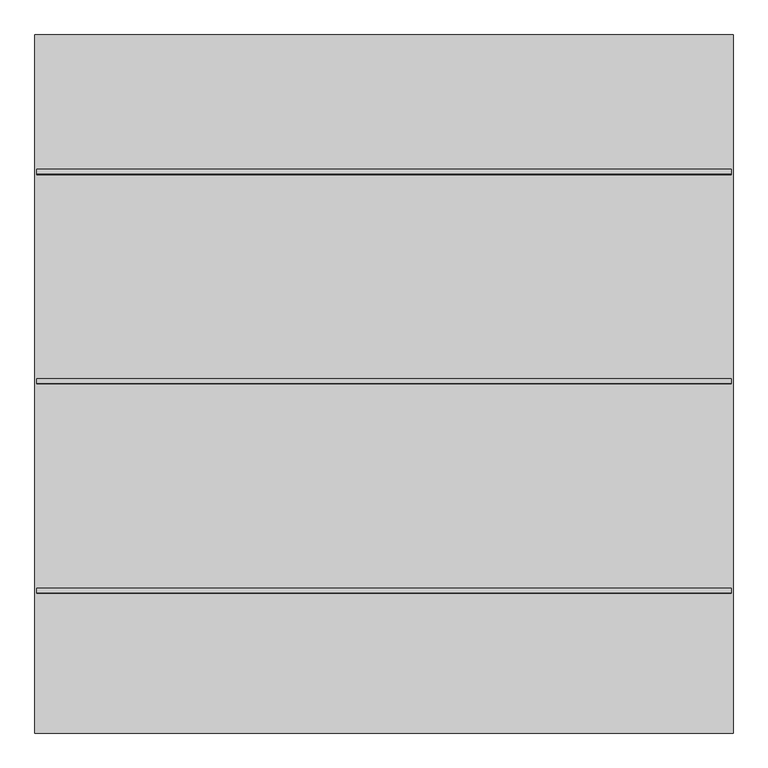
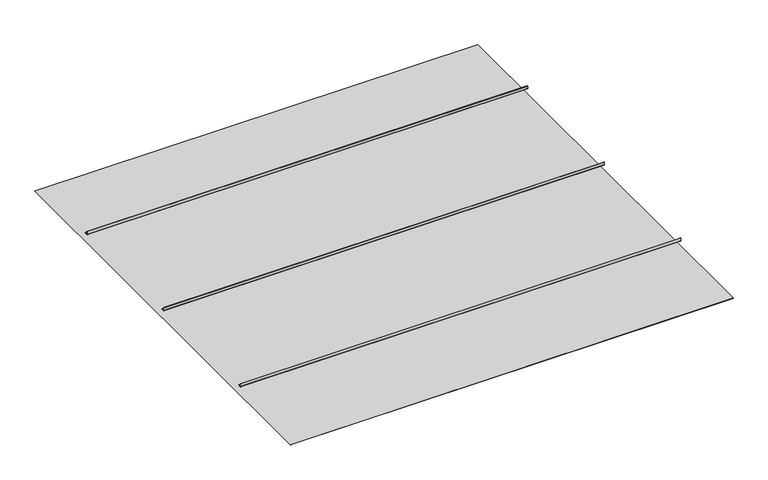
"""IFC4 building model written with IfcOpenShell, lengths in millimetres: proxy geometry, durlum_FLUID-C : durlum_FLUID-C_1204x1204."""

from ifc_helpers import new_model, si_unit, point, frame, frame_2d, origin, place, context, project, spatial, polyline, circle_curve, trimmed, segment, composite_curve, outline, extrude, source, transform, mapped, element, save


def generic_models_1e71879b(model_context):
    return source(origin(), model_context, "Body", "SweptSolid", [
        extrude(outline(composite_curve([segment(polyline([(2.0, 3832.9), (2.0, 3807.0)]), True, "CONTINUOUS"), segment(trimmed(circle_curve(frame_2d((4.0, 3807.0)), 2.0), [point((2.0, 3807.0))], [point((4.0, 3805.0))], True, "CARTESIAN"), True, "CONTINUOUS"), segment(polyline([(4.0, 3805.0), (29.9, 3805.0), (29.9, 3803.0), (4.0, 3803.0)]), True, "CONTINUOUS"), segment(trimmed(circle_curve(frame_2d((4.0, 3807.0)), 4.0), [point((4.0, 3803.0))], [point((0.0, 3807.0))], False, "CARTESIAN"), True, "CONTINUOUS"), segment(polyline([(0.0, 3807.0), (0.0, 3832.9), (2.0, 3832.9)]), True, "CONTINUOUS")], self_intersect=False)), frame((-1990.0, 0.0, 0.0), z_axis=(1.0, 0.0, 0.0), x_axis=(0.0, 1.0, 0.0)), (0.0, 0.0, 1.0), 3980.0),
        extrude(outline(composite_curve([segment(polyline([(1202.0, 3832.9), (1202.0, 3807.0)]), True, "CONTINUOUS"), segment(trimmed(circle_curve(frame_2d((1204.0, 3807.0)), 2.0), [point((1202.0, 3807.0))], [point((1204.0, 3805.0))], True, "CARTESIAN"), True, "CONTINUOUS"), segment(polyline([(1204.0, 3805.0), (1229.9, 3805.0), (1229.9, 3803.0), (1204.0, 3803.0)]), True, "CONTINUOUS"), segment(trimmed(circle_curve(frame_2d((1204.0, 3807.0)), 4.0), [point((1204.0, 3803.0))], [point((1200.0, 3807.0))], False, "CARTESIAN"), True, "CONTINUOUS"), segment(polyline([(1200.0, 3807.0), (1200.0, 3832.9), (1202.0, 3832.9)]), True, "CONTINUOUS")], self_intersect=False)), frame((-1990.0, 0.0, 0.0), z_axis=(1.0, 0.0, 0.0), x_axis=(0.0, 1.0, 0.0)), (0.0, 0.0, 1.0), 3980.0),
        extrude(outline(composite_curve([segment(polyline([(-1198.0, 3832.9), (-1198.0, 3807.0)]), True, "CONTINUOUS"), segment(trimmed(circle_curve(frame_2d((-1196.0, 3807.0)), 2.0), [point((-1198.0, 3807.0))], [point((-1196.0, 3805.0))], True, "CARTESIAN"), True, "CONTINUOUS"), segment(polyline([(-1196.0, 3805.0), (-1170.1, 3805.0), (-1170.1, 3803.0), (-1196.0, 3803.0)]), True, "CONTINUOUS"), segment(trimmed(circle_curve(frame_2d((-1196.0, 3807.0)), 4.0), [point((-1196.0, 3803.0))], [point((-1200.0, 3807.0))], False, "CARTESIAN"), True, "CONTINUOUS"), segment(polyline([(-1200.0, 3807.0), (-1200.0, 3832.9), (-1198.0, 3832.9)]), True, "CONTINUOUS")], self_intersect=False)), frame((-1990.0, 0.0, 0.0), z_axis=(1.0, 0.0, 0.0), x_axis=(0.0, 1.0, 0.0)), (0.0, 0.0, 1.0), 3980.0),
        extrude(outline(polyline([(2000.0, 2000.0), (2000.0, -2000.0), (-2000.0, -2000.0), (-2000.0, 2000.0), (2000.0, 2000.0)])), frame((0.0, 0.0, 3740.0), z_axis=(0.0, 0.0, 1.0), x_axis=(1.0, 0.0, 0.0)), (0.0, 0.0, 1.0), 0.6),
    ])


if __name__ == "__main__":
    model = new_model("IFC4")
    model_context = context("Model", 3, world=origin())
    ifc_project = project(units=[si_unit("LENGTHUNIT", "METRE", prefix="MILLI")], contexts=[model_context])
    site = spatial("IfcSite", under=ifc_project)
    building = spatial("IfcBuilding", under=site)
    placement = place(None, origin())
    generic_models_shape = generic_models_1e71879b(model_context)
    element("IfcBuildingElementProxy", 1, Name="durlum_FLUID-C : durlum_FLUID-C_1204x1204", ObjectType="durlum_FLUID-C : durlum_FLUID-C_1204x1204", at=placement, inside=building, context=model_context, shape_type="MappedRepresentation", body=[
        mapped(generic_models_shape, transform((0.0, 0.0, 0.0), x_axis=(1.0, 0.0, 0.0), y_axis=(0.0, 1.0, 0.0), z_axis=(0.0, 0.0, 1.0))),
    ])
    save(model, "model.ifc")
